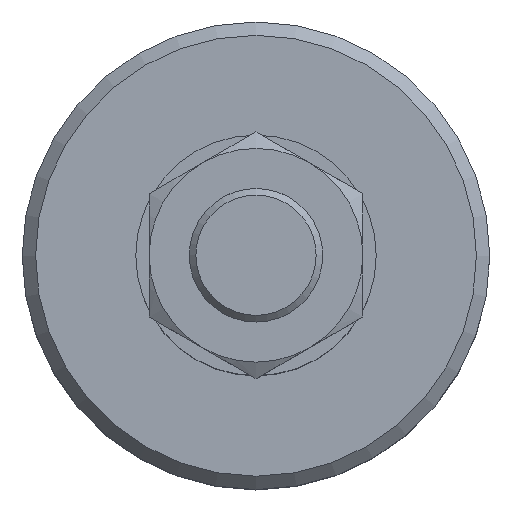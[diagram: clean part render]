
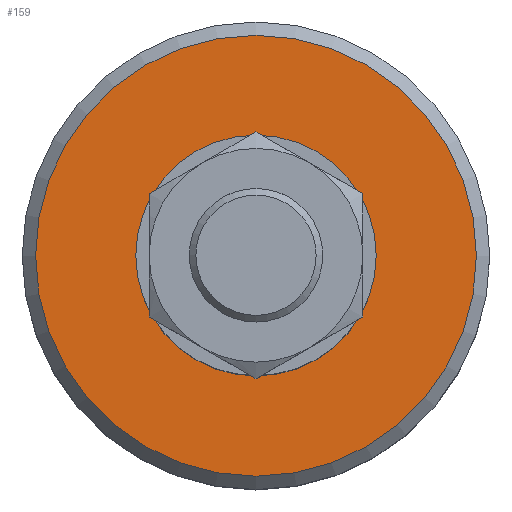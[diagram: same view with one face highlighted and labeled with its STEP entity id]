
A CAD part, top view. The second image highlights one B-rep face of the part: STEP entity #159.
In plain terms, the highlighted planar face has unit normal (0, 0, 1).
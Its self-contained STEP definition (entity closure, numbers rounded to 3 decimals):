
#128=CARTESIAN_POINT('',(0.,-16.5,10.175));
#129=VERTEX_POINT('',#128);
#130=CARTESIAN_POINT('',(0.0,0.0,10.175));
#131=DIRECTION('',(0.0,0.0,-1.0));
#132=DIRECTION('',(0.0,1.0,0.0));
#133=AXIS2_PLACEMENT_3D('',#130,#131,#132);
#134=CIRCLE('',#133,16.5);
#135=EDGE_CURVE('',#129,#129,#134,.T.);
#140=CARTESIAN_POINT('',(0.0,-4.5,10.175));
#141=DIRECTION('',(0.0,0.0,1.0));
#142=DIRECTION('',(1.0,0.0,0.0));
#143=AXIS2_PLACEMENT_3D('',#140,#141,#142);
#144=PLANE('',#143);
#145=ORIENTED_EDGE('',*,*,#135,.F.);
#146=EDGE_LOOP('',(#145));
#147=FACE_OUTER_BOUND('',#146,.T.);
#148=CARTESIAN_POINT('',(0.0,-9.,10.175));
#149=VERTEX_POINT('',#148);
#150=CARTESIAN_POINT('',(0.0,0.0,10.175));
#151=DIRECTION('',(0.0,0.0,1.0));
#152=DIRECTION('',(0.0,-1.0,0.0));
#153=AXIS2_PLACEMENT_3D('',#150,#151,#152);
#154=CIRCLE('',#153,9.);
#155=EDGE_CURVE('',#149,#149,#154,.T.);
#156=ORIENTED_EDGE('',*,*,#155,.F.);
#157=EDGE_LOOP('',(#156));
#158=FACE_BOUND('',#157,.T.);
#159=ADVANCED_FACE('',(#147,#158),#144,.T.);
